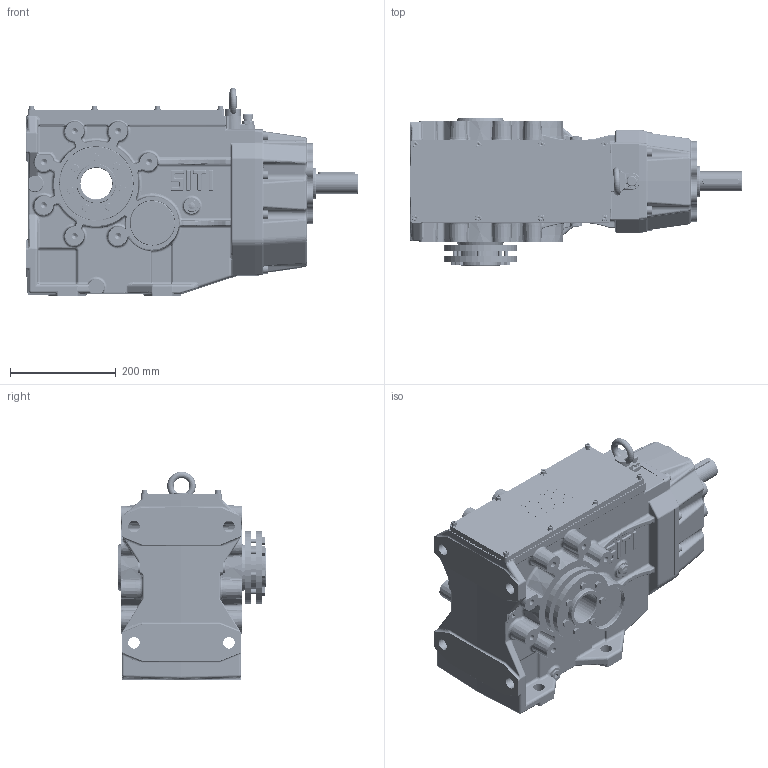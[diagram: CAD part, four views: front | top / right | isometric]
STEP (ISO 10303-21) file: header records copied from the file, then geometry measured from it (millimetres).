
FILE_DESCRIPTION((''),'2;1');
FILE_NAME('O:\Figurini\Figurini BH\3D\125\BH 125 CC-B.stp','2013-05-09T11:00:46',('d.iannaccio'),(''),'Autodesk Inventor 2012','Autodesk Inventor 2012','');
FILE_SCHEMA(('AUTOMOTIVE_DESIGN { 1 0 10303 214 1 1 1 1 }'));
Length unit declared in the file: millimetre
Products named in the file (1): BH_125 CC-B
Bounding box: 629.01 x 280 x 394.92 mm (x, y, z)
Volume: 9214783.7 mm3; surface area: 1844037.9 mm2
Topology: 47 solids, 49 shells, 4007 faces, 9501 edges, 5549 vertices
Faces by surface type: cylinder 1170, plane 1058, bspline 969, torus 378, cone 254, sphere 178
Full cylindrical faces by diameter (mm): 4.917 x8, 6 x16, 6.4 x8, 6.647 x8, 6.87 x1, 7 x8, 8 x15, 8.376 x8, 8.4 x1, 9 x14, 10 x20, 10.106 x3, 11 x10, 11.835 x14, 12 x8, 12.5 x8, 14.95 x8, 16 x9, 19 x1, 19.5 x1, 20 x1, 22 x8, 30 x2, 37.5 x1, 38 x1, 39.386 x1, 39.986 x2, 54.765 x1, 57 x1, 59.4 x1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
Entity records: 143656 total; most frequent: CARTESIAN_POINT 55181, ORIENTED_EDGE 17264, DIRECTION 16936, EDGE_CURVE 8632, AXIS2_PLACEMENT_3D 7044, VERTEX_POINT 5364, EDGE_LOOP 4740, STYLED_ITEM 4053
